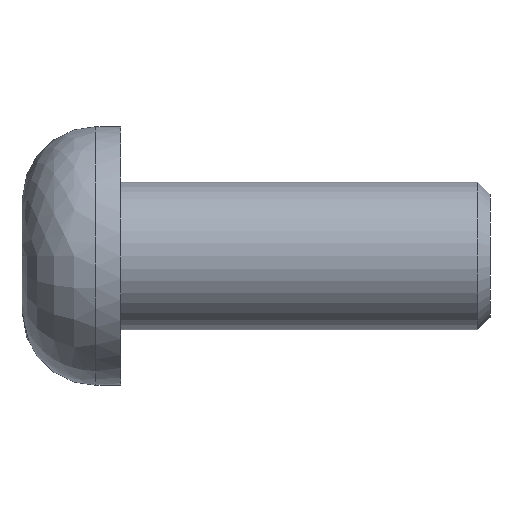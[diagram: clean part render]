
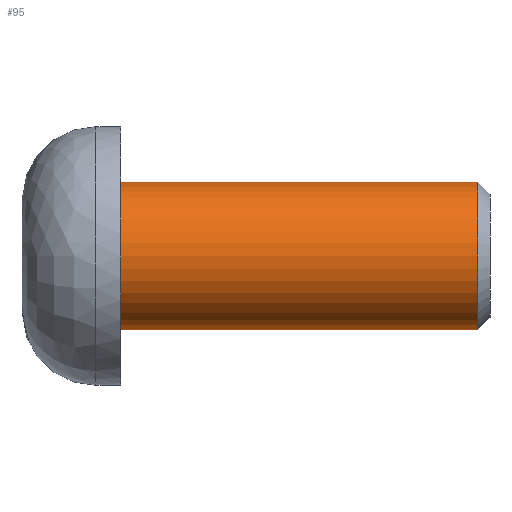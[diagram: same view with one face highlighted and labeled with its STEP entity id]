
A CAD part, front view. The second image highlights one B-rep face of the part: STEP entity #95.
In plain terms, the highlighted cylindrical face has radius 3 mm (diameter 6 mm), a full revolution.
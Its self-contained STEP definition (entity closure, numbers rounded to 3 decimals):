
#68=CARTESIAN_POINT('',(303.5,170.0,25.0));
#69=DIRECTION('',(1.0,0.0,0.0));
#70=DIRECTION('',(0.0,1.0,0.0));
#71=AXIS2_PLACEMENT_3D('',#68,#69,#70);
#72=CYLINDRICAL_SURFACE('',#71,3.);
#73=CARTESIAN_POINT('',(303.5,167.0,25.0));
#74=VERTEX_POINT('',#73);
#75=CARTESIAN_POINT('',(303.5,170.0,25.0));
#76=DIRECTION('',(-1.0,0.0,0.0));
#77=DIRECTION('',(0.0,-1.0,0.0));
#78=AXIS2_PLACEMENT_3D('',#75,#76,#77);
#79=CIRCLE('',#78,3.);
#80=EDGE_CURVE('',#74,#74,#79,.T.);
#81=ORIENTED_EDGE('',*,*,#80,.T.);
#82=EDGE_LOOP('',(#81));
#83=FACE_OUTER_BOUND('',#82,.T.);
#84=CARTESIAN_POINT('',(289.0,170.0,22.0));
#85=VERTEX_POINT('',#84);
#86=CARTESIAN_POINT('',(289.0,170.0,25.0));
#87=DIRECTION('',(1.0,0.0,0.0));
#88=DIRECTION('',(0.0,0.0,-1.0));
#89=AXIS2_PLACEMENT_3D('',#86,#87,#88);
#90=CIRCLE('',#89,3.);
#91=EDGE_CURVE('',#85,#85,#90,.F.);
#92=ORIENTED_EDGE('',*,*,#91,.F.);
#93=EDGE_LOOP('',(#92));
#94=FACE_BOUND('',#93,.T.);
#95=ADVANCED_FACE('',(#83,#94),#72,.T.);
